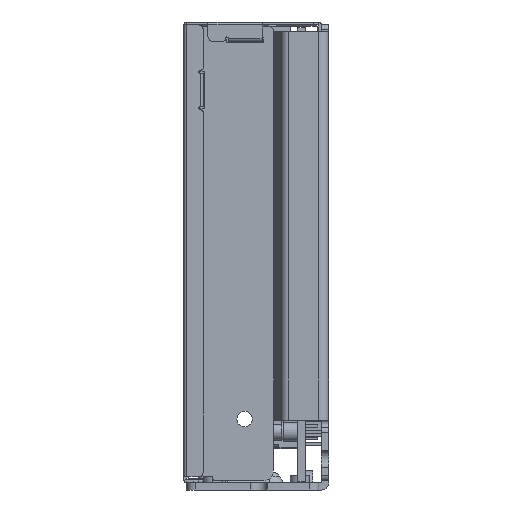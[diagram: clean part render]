
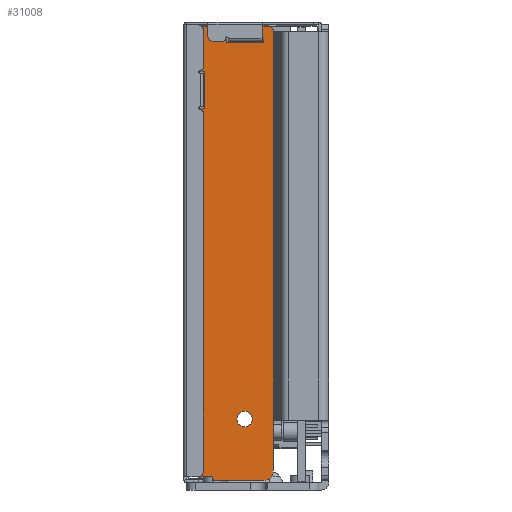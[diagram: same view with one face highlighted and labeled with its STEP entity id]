
A CAD part, left-side view. The second image highlights one B-rep face of the part: STEP entity #31008.
In plain terms, the highlighted planar face has unit normal (-1, 0, 0).
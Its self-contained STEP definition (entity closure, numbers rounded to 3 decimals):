
#9311=DIRECTION('',(0.,0.,1.));
#9312=VECTOR('',#9311,80.5);
#9313=CARTESIAN_POINT('',(-57.5,11.414,-33.75));
#9314=LINE('',#9313,#9312);
#9355=DIRECTION('',(0.,0.,1.));
#9356=VECTOR('',#9355,10.5);
#9357=CARTESIAN_POINT('',(-57.5,11.414,-44.25));
#9358=LINE('',#9357,#9356);
#9383=CARTESIAN_POINT('',(-57.5,23.6,-45.75));
#9384=DIRECTION('',(1.,0.,0.));
#9385=DIRECTION('',(0.,0.,-1.));
#9386=AXIS2_PLACEMENT_3D('',#9383,#9384,#9385);
#9391=DIRECTION('',(0.,0.,1.));
#9392=VECTOR('',#9391,0.2);
#9393=CARTESIAN_POINT('',(-57.5,24.1,-45.75));
#9394=LINE('',#9393,#9392);
#9398=CARTESIAN_POINT('',(-57.5,27.1,-43.55));
#9399=DIRECTION('',(1.,0.,0.));
#9400=DIRECTION('',(0.,0.,-1.));
#9401=AXIS2_PLACEMENT_3D('',#9398,#9399,#9400);
#9406=CARTESIAN_POINT('',(-57.5,27.1,45.85));
#9407=DIRECTION('',(1.,0.,0.));
#9408=DIRECTION('',(0.,1.,0.));
#9409=AXIS2_PLACEMENT_3D('',#9406,#9407,#9408);
#9414=CARTESIAN_POINT('',(-57.5,12.414,46.85));
#9415=DIRECTION('',(1.,0.,0.));
#9416=DIRECTION('',(0.,0.,1.));
#9417=AXIS2_PLACEMENT_3D('',#9414,#9415,#9416);
#9422=CARTESIAN_POINT('',(-57.5,13.414,-44.25));
#9423=DIRECTION('',(1.,0.,0.));
#9424=DIRECTION('',(0.,-1.,0.));
#9425=AXIS2_PLACEMENT_3D('',#9422,#9423,#9424);
#9430=DIRECTION('',(0.,1.,0.));
#9431=VECTOR('',#9430,10.186);
#9432=CARTESIAN_POINT('',(-57.5,13.414,-46.25));
#9433=LINE('',#9432,#9431);
#9437=CARTESIAN_POINT('',(-57.5,17.4,-33.55));
#9438=DIRECTION('',(-1.,0.,0.));
#9439=DIRECTION('',(0.,0.,-1.));
#9440=AXIS2_PLACEMENT_3D('',#9437,#9438,#9439);
#9445=CARTESIAN_POINT('',(-57.5,17.4,-33.55));
#9446=DIRECTION('',(-1.,0.,0.));
#9447=DIRECTION('',(0.,0.,1.));
#9448=AXIS2_PLACEMENT_3D('',#9445,#9446,#9447);
#9621=DIRECTION('',(0.,0.,1.));
#9622=VECTOR('',#9621,0.1);
#9623=CARTESIAN_POINT('',(-57.5,11.414,46.75));
#9624=LINE('',#9623,#9622);
#9642=DIRECTION('',(0.,1.,0.));
#9643=VECTOR('',#9642,14.686);
#9644=CARTESIAN_POINT('',(-57.5,12.414,47.85));
#9645=LINE('',#9644,#9643);
#9663=DIRECTION('',(0.,0.,-1.));
#9664=VECTOR('',#9663,89.4);
#9665=CARTESIAN_POINT('',(-57.5,29.1,45.85));
#9666=LINE('',#9665,#9664);
#9684=DIRECTION('',(0.,-1.,0.));
#9685=VECTOR('',#9684,3.);
#9686=CARTESIAN_POINT('',(-57.5,27.1,-45.55));
#9687=LINE('',#9686,#9685);
#9705=DIRECTION('',(0.,0.,1.));
#9706=VECTOR('',#9705,1.);
#9707=CARTESIAN_POINT('',(-57.5,21.2,44.45));
#9708=LINE('',#9707,#9706);
#9719=DIRECTION('',(0.,-1.,0.));
#9720=VECTOR('',#9719,7.8);
#9721=CARTESIAN_POINT('',(-57.5,21.2,45.45));
#9722=LINE('',#9721,#9720);
#9733=DIRECTION('',(0.,0.,-1.));
#9734=VECTOR('',#9733,1.);
#9735=CARTESIAN_POINT('',(-57.5,13.4,45.45));
#9736=LINE('',#9735,#9734);
#9747=DIRECTION('',(0.,1.,0.));
#9748=VECTOR('',#9747,7.8);
#9749=CARTESIAN_POINT('',(-57.5,13.4,44.45));
#9750=LINE('',#9749,#9748);
#9761=DIRECTION('',(0.,0.,1.));
#9762=VECTOR('',#9761,7.8);
#9763=CARTESIAN_POINT('',(-57.5,26.7,30.75));
#9764=LINE('',#9763,#9762);
#9775=DIRECTION('',(0.,-1.,0.));
#9776=VECTOR('',#9775,1.);
#9777=CARTESIAN_POINT('',(-57.5,26.7,38.55));
#9778=LINE('',#9777,#9776);
#9789=DIRECTION('',(0.,0.,-1.));
#9790=VECTOR('',#9789,7.8);
#9791=CARTESIAN_POINT('',(-57.5,25.7,38.55));
#9792=LINE('',#9791,#9790);
#9803=DIRECTION('',(0.,1.,0.));
#9804=VECTOR('',#9803,1.);
#9805=CARTESIAN_POINT('',(-57.5,25.7,30.75));
#9806=LINE('',#9805,#9804);
#24125=CARTESIAN_POINT('',(-57.5,11.414,46.75));
#24126=VERTEX_POINT('',#24125);
#24127=CARTESIAN_POINT('',(-57.5,11.414,-33.75));
#24128=VERTEX_POINT('',#24127);
#24129=CARTESIAN_POINT('',(-57.5,11.414,-44.25));
#24131=VERTEX_POINT('',#24129);
#24133=CARTESIAN_POINT('',(-57.5,13.414,-46.25));
#24134=VERTEX_POINT('',#24133);
#24137=CARTESIAN_POINT('',(-57.5,23.6,-46.25));
#24138=CARTESIAN_POINT('',(-57.5,24.1,-45.75));
#24139=VERTEX_POINT('',#24137);
#24140=VERTEX_POINT('',#24138);
#24141=CARTESIAN_POINT('',(-57.5,24.1,-45.55));
#24142=VERTEX_POINT('',#24141);
#24143=CARTESIAN_POINT('',(-57.5,27.1,-45.55));
#24144=VERTEX_POINT('',#24143);
#24145=CARTESIAN_POINT('',(-57.5,29.1,-43.55));
#24146=VERTEX_POINT('',#24145);
#24147=CARTESIAN_POINT('',(-57.5,29.1,45.85));
#24148=VERTEX_POINT('',#24147);
#24149=CARTESIAN_POINT('',(-57.5,27.1,47.85));
#24150=VERTEX_POINT('',#24149);
#24151=CARTESIAN_POINT('',(-57.5,12.414,47.85));
#24152=VERTEX_POINT('',#24151);
#24153=CARTESIAN_POINT('',(-57.5,11.414,46.85));
#24154=VERTEX_POINT('',#24153);
#24155=CARTESIAN_POINT('',(-57.5,26.7,30.75));
#24156=CARTESIAN_POINT('',(-57.5,26.7,38.55));
#24157=VERTEX_POINT('',#24155);
#24158=VERTEX_POINT('',#24156);
#24159=CARTESIAN_POINT('',(-57.5,25.7,30.75));
#24160=VERTEX_POINT('',#24159);
#24161=CARTESIAN_POINT('',(-57.5,25.7,38.55));
#24162=VERTEX_POINT('',#24161);
#24163=CARTESIAN_POINT('',(-57.5,21.2,44.45));
#24164=CARTESIAN_POINT('',(-57.5,21.2,45.45));
#24165=VERTEX_POINT('',#24163);
#24166=VERTEX_POINT('',#24164);
#24167=CARTESIAN_POINT('',(-57.5,13.4,44.45));
#24168=VERTEX_POINT('',#24167);
#24169=CARTESIAN_POINT('',(-57.5,13.4,45.45));
#24170=VERTEX_POINT('',#24169);
#24171=CARTESIAN_POINT('',(-57.5,17.4,-35.15));
#24172=CARTESIAN_POINT('',(-57.5,17.4,-31.95));
#24173=VERTEX_POINT('',#24171);
#24174=VERTEX_POINT('',#24172);
#30952=CARTESIAN_POINT('',(-57.5,11.414,-46.25));
#30953=DIRECTION('',(1.,0.,0.));
#30954=DIRECTION('',(0.,1.,0.));
#30955=AXIS2_PLACEMENT_3D('',#30952,#30953,#30954);
#30956=PLANE('',#30955);
#30958=ORIENTED_EDGE('',*,*,#30957,.T.);
#30960=ORIENTED_EDGE('',*,*,#30959,.T.);
#30962=ORIENTED_EDGE('',*,*,#30961,.F.);
#30964=ORIENTED_EDGE('',*,*,#30963,.T.);
#30966=ORIENTED_EDGE('',*,*,#30965,.F.);
#30968=ORIENTED_EDGE('',*,*,#30967,.T.);
#30970=ORIENTED_EDGE('',*,*,#30969,.F.);
#30972=ORIENTED_EDGE('',*,*,#30971,.T.);
#30974=ORIENTED_EDGE('',*,*,#30973,.F.);
#30975=ORIENTED_EDGE('',*,*,#30902,.F.);
#30976=ORIENTED_EDGE('',*,*,#30929,.F.);
#30977=ORIENTED_EDGE('',*,*,#30942,.T.);
#30979=ORIENTED_EDGE('',*,*,#30978,.T.);
#30980=EDGE_LOOP('',(#30958,#30960,#30962,#30964,#30966,#30968,#30970,#30972,
#30974,#30975,#30976,#30977,#30979));
#30981=FACE_OUTER_BOUND('',#30980,.F.);
#30983=ORIENTED_EDGE('',*,*,#30982,.F.);
#30985=ORIENTED_EDGE('',*,*,#30984,.F.);
#30987=ORIENTED_EDGE('',*,*,#30986,.F.);
#30989=ORIENTED_EDGE('',*,*,#30988,.F.);
#30990=EDGE_LOOP('',(#30983,#30985,#30987,#30989));
#30991=FACE_BOUND('',#30990,.F.);
#30993=ORIENTED_EDGE('',*,*,#30992,.F.);
#30995=ORIENTED_EDGE('',*,*,#30994,.F.);
#30997=ORIENTED_EDGE('',*,*,#30996,.F.);
#30999=ORIENTED_EDGE('',*,*,#30998,.F.);
#31000=EDGE_LOOP('',(#30993,#30995,#30997,#30999));
#31001=FACE_BOUND('',#31000,.F.);
#31003=ORIENTED_EDGE('',*,*,#31002,.T.);
#31005=ORIENTED_EDGE('',*,*,#31004,.T.);
#31006=EDGE_LOOP('',(#31003,#31005));
#31007=FACE_BOUND('',#31006,.F.);
#9387=CIRCLE('',#9386,0.5);
#9402=CIRCLE('',#9401,2.);
#9410=CIRCLE('',#9409,2.);
#9418=CIRCLE('',#9417,1.);
#9426=CIRCLE('',#9425,2.);
#9441=CIRCLE('',#9440,1.6);
#9449=CIRCLE('',#9448,1.6);
#30902=EDGE_CURVE('',#24128,#24126,#9314,.T.);
#30929=EDGE_CURVE('',#24131,#24128,#9358,.T.);
#30942=EDGE_CURVE('',#24131,#24134,#9426,.T.);
#30957=EDGE_CURVE('',#24139,#24140,#9387,.T.);
#30959=EDGE_CURVE('',#24140,#24142,#9394,.T.);
#30961=EDGE_CURVE('',#24144,#24142,#9687,.T.);
#30963=EDGE_CURVE('',#24144,#24146,#9402,.T.);
#30965=EDGE_CURVE('',#24148,#24146,#9666,.T.);
#30967=EDGE_CURVE('',#24148,#24150,#9410,.T.);
#30969=EDGE_CURVE('',#24152,#24150,#9645,.T.);
#30971=EDGE_CURVE('',#24152,#24154,#9418,.T.);
#30973=EDGE_CURVE('',#24126,#24154,#9624,.T.);
#30978=EDGE_CURVE('',#24134,#24139,#9433,.T.);
#30982=EDGE_CURVE('',#24157,#24158,#9764,.T.);
#30984=EDGE_CURVE('',#24160,#24157,#9806,.T.);
#30986=EDGE_CURVE('',#24162,#24160,#9792,.T.);
#30988=EDGE_CURVE('',#24158,#24162,#9778,.T.);
#30992=EDGE_CURVE('',#24165,#24166,#9708,.T.);
#30994=EDGE_CURVE('',#24168,#24165,#9750,.T.);
#30996=EDGE_CURVE('',#24170,#24168,#9736,.T.);
#30998=EDGE_CURVE('',#24166,#24170,#9722,.T.);
#31002=EDGE_CURVE('',#24173,#24174,#9441,.T.);
#31004=EDGE_CURVE('',#24174,#24173,#9449,.T.);
#31008=ADVANCED_FACE('',(#30981,#30991,#31001,#31007),#30956,.F.);
